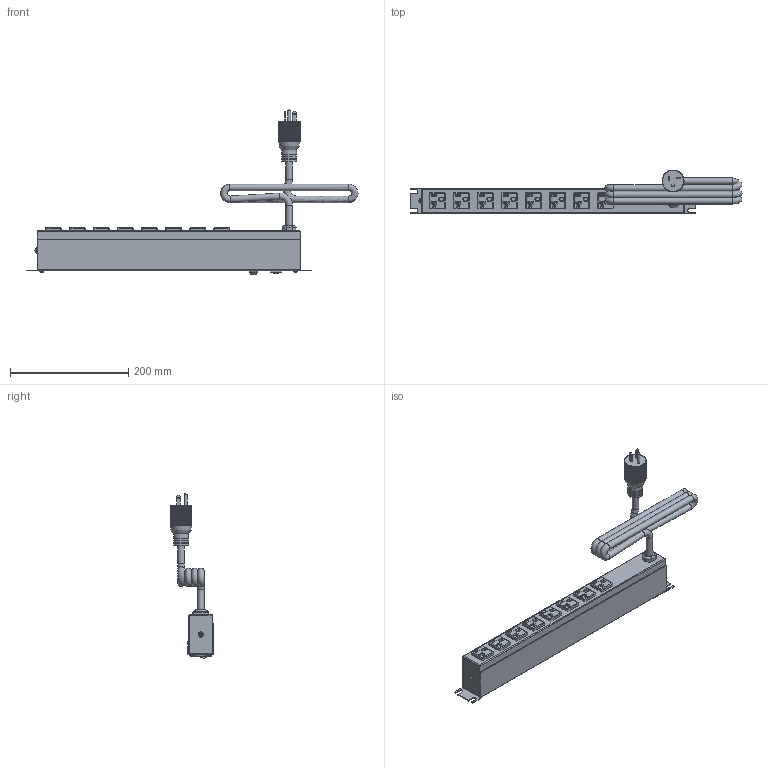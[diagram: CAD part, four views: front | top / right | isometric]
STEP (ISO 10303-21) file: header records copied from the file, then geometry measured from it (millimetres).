
FILE_DESCRIPTION((''),'2;1');
FILE_NAME('E:\Dutton\Manufacturing\drawings\Updated 2009\POWER BARS\1589 RR series\STEP''s\1589H8F1BKRR.stp','2010-01-12T10:17:24',('tfoster'),(''),'Autodesk Inventor 2010','Autodesk Inventor 2010','');
FILE_SCHEMA(('AUTOMOTIVE_DESIGN { 1 0 10303 214 1 1 1 1 }'));
Products named in the file (12): 1589H8F1BKRR; 1589H6 & H8 RR Front Panel; 1589H8 RR Back Plate; #6x0.5 type A; Reset Switch; Power Switch Assembly; Power Switch; Power Switch pt; toothwasher; round head 1-way 8-32 x 0.5 screw; 20 amp Cored; 20 Amp Receptacle
Assembly tree (21 placements, depth 3):
  1589H8F1BKRR
    1589H6 & H8 RR Front Panel
    1589H8 RR Back Plate
    #6x0.5 type A  x4
    Reset Switch
    Power Switch Assembly
      Power Switch
      Power Switch pt
    toothwasher
    round head 1-way 8-32 x 0.5 screw
    20 amp Cored
    20 Amp Receptacle  x8
Bounding box: 560.88 x 73.73 x 279.63 mm (x, y, z)
Volume: 458658.2 mm3; surface area: 323458.9 mm2
Topology: 20 solids, 20 shells, 1284 faces, 3682 edges, 2434 vertices
Faces by surface type: plane 875, cylinder 223, bspline 99, sphere 38, cone 33, torus 16
Full cylindrical faces by diameter (mm): 1 x2, 1.803 x3, 1.905 x2, 2.997 x4, 3.2 x2, 4.3 x1, 4.801 x1, 4.826 x1, 5.563 x4, 7.849 x1, 11 x4, 12.5 x1, 22.606 x2, 25.146 x3
Entity records: 28443 total; most frequent: CARTESIAN_POINT 8528, ORIENTED_EDGE 4266, DIRECTION 3758, EDGE_CURVE 2133, VERTEX_POINT 1450, VECTOR 1390, LINE 1390, AXIS2_PLACEMENT_3D 1184
